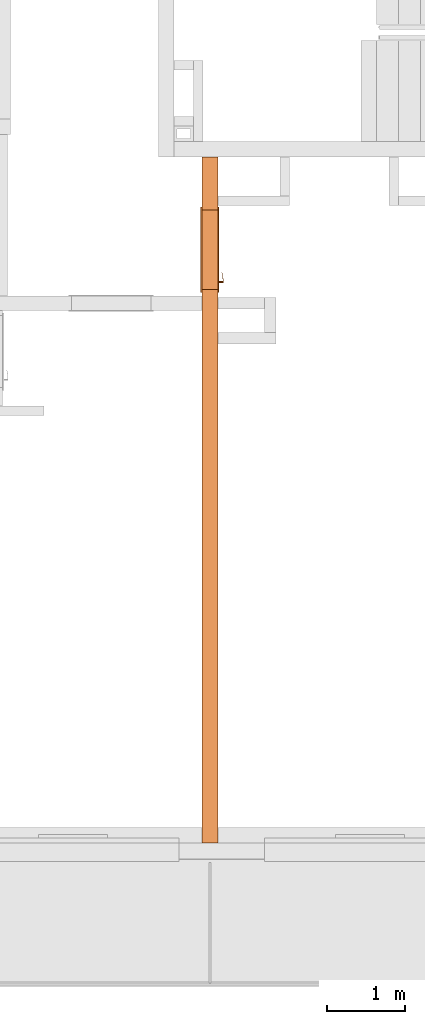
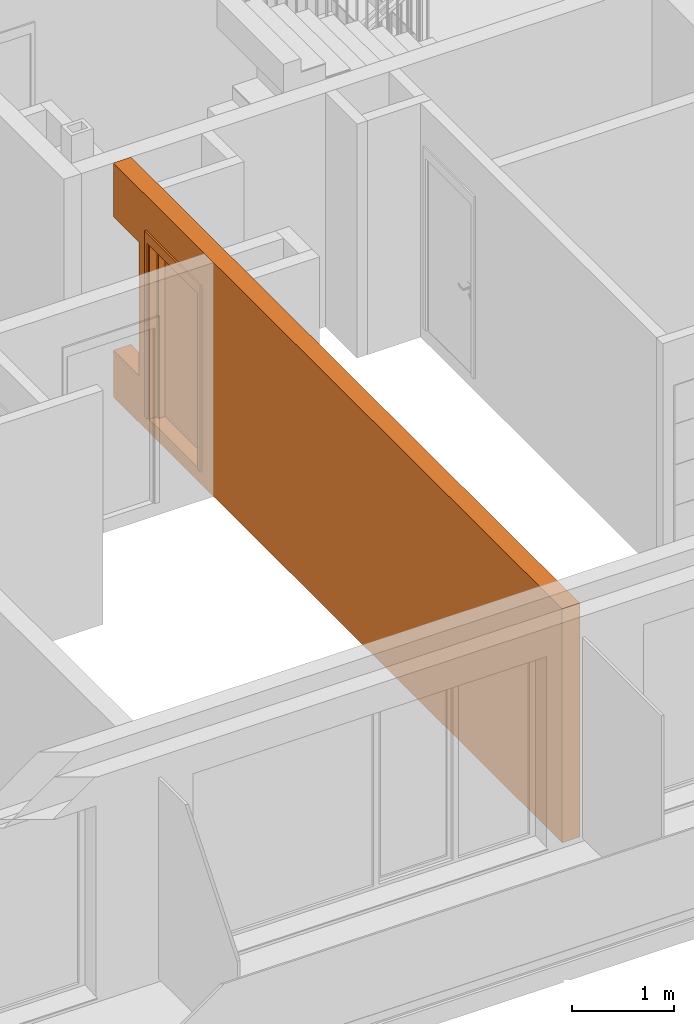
# One storey, part 18 of 64: 2 proxies, 2 openings.
"""IFC2X3 building model written with IfcOpenShell, lengths in millimetres."""

from ifc_helpers import new_model, entity, si_unit, converted_unit, derived_unit, money_unit, direction, frame, origin_with_axes, origin_2d_with_axis, place, context, subcontext, project, spatial, rectangle, extrude, open_shell, faceted_brep, surface_model, source, transform, mapped, material, type_object, element, fill, save


model = new_model("IFC2X3")

# Units and contexts
model_context = context("Model", 3, precision=0.01, world=origin_with_axes(), true_north=direction((0.34421633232, 0.938890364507)))
body_context = subcontext(model_context, "Body", "Model", "MODEL_VIEW")
ifc_project = project(units=[si_unit("LENGTHUNIT", "METRE", prefix="MILLI"), si_unit("AREAUNIT", "SQUARE_METRE"), si_unit("VOLUMEUNIT", "CUBIC_METRE"), converted_unit("PLANEANGLEUNIT", "DEGREE", entity("IfcPlaneAngleMeasure", 0.0174532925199), si_unit("PLANEANGLEUNIT", "RADIAN"), dimensions=[0, 0, 0, 0, 0, 0, 0]), si_unit("SOLIDANGLEUNIT", "STERADIAN"), money_unit("USD"), converted_unit("TIMEUNIT", "Year", entity("IfcTimeMeasure", 31556926.0), si_unit("TIMEUNIT", "SECOND"), dimensions=[0, 0, 1, 0, 0, 0, 0]), si_unit("MASSUNIT", "GRAM", prefix="KILO"), si_unit("THERMODYNAMICTEMPERATUREUNIT", "DEGREE_CELSIUS"), si_unit("LUMINOUSINTENSITYUNIT", "LUMEN"), si_unit("ENERGYUNIT", "JOULE", prefix="MEGA"), derived_unit("THERMALCONDUCTANCEUNIT", [(si_unit("POWERUNIT", "WATT"), 1), (si_unit("LENGTHUNIT", "METRE"), -1), (si_unit("THERMODYNAMICTEMPERATUREUNIT", "KELVIN"), -1)]), derived_unit("SPECIFICHEATCAPACITYUNIT", [(si_unit("ENERGYUNIT", "JOULE"), 1), (si_unit("MASSUNIT", "GRAM", prefix="KILO"), -1), (si_unit("THERMODYNAMICTEMPERATUREUNIT", "KELVIN"), -1)]), derived_unit("MASSDENSITYUNIT", [(si_unit("MASSUNIT", "GRAM", prefix="KILO"), 1), (si_unit("VOLUMEUNIT", "CUBIC_METRE"), -1)])], contexts=[model_context])

# Site, building, storey
site_placement = place(None, origin_with_axes())
site = spatial("IfcSite", under=ifc_project, at=site_placement, Name="USTRONIE MORSKIE", CompositionType="ELEMENT")
building_placement = place(site_placement, origin_with_axes())
building = spatial("IfcBuilding", under=site, at=building_placement, Name="Budynek", CompositionType="ELEMENT")
storey_placement = place(building_placement, frame((0.0, 0.0, 7000.0), z_axis=(0.0, 0.0, 1.0), x_axis=(1.0, 0.0, 0.0)))
storey = spatial("IfcBuildingStorey", under=building, at=storey_placement, Name="PIĘTRO 2", CompositionType="ELEMENT", Elevation=7000.0)

# Proxies, openings
ifc_material = material(Name="Beton konstrukcyjny B25")
building_element_proxy_type_1 = type_object("IfcBuildingElementProxyType", Name="Beton konstrukcyjny B25 200", PredefinedType="NOTDEFINED")
proxy_1_placement = place(storey_placement, frame((390217.920919, 729801.199036, -160.0), z_axis=(0.0, 0.0, 1.0), x_axis=(0.0, -1.0, 0.0)))
proxy_1 = element("IfcBuildingElementProxy", 1, at=proxy_1_placement, inside=storey, type_object=building_element_proxy_type_1, material=ifc_material, Name="SW-01", context=body_context, shape_type="Brep", body=[
    faceted_brep([(8900.0, 100.0, 0.0), (8900.0, -100.0, 0.0), (100.0, -100.0, 0.0), (100.0, 100.0, 0.0), (8900.0, 100.0, 2800.0), (8900.0, -100.0, 2800.0), (100.0, -100.0, 2800.0), (100.0, 100.0, 2800.0)], [[[0, 1, 2, 3]], [[1, 0, 4, 5]], [[1, 5, 6, 2]], [[7, 3, 2, 6]], [[4, 0, 3, 7]], [[5, 4, 7, 6]]]),
])
opening_1_placement = place(proxy_1_placement, frame((1290.0, 0.0, 160.0), z_axis=(0.0, 0.0, 1.0), x_axis=(1.0, 0.0, 0.0)))
opening_1 = element("IfcOpeningElement", 2, at=opening_1_placement, cuts=proxy_1, Name="Dw.1", context=body_context, shape_type="SweptSolid", body=[
    extrude(rectangle(XDim=1020.0, YDim=2120.0, at=origin_2d_with_axis()), frame((0.0, -200.0, 1060.0), z_axis=(0.0, -1.0, 0.0), x_axis=(-1.0, 0.0, 0.0)), (0.0, 0.0, -1.0), 600.0),
    extrude(rectangle(XDim=1094.0, YDim=2227.0, at=origin_2d_with_axis()), frame((0.0, -100.0, 1113.5), z_axis=(0.0, -1.0, 0.0), x_axis=(-1.0, 0.0, 0.0)), (0.0, 0.0, 1.0), 200.0),
    extrude(rectangle(XDim=1094.0, YDim=2227.0, at=origin_2d_with_axis()), frame((0.0, 100.0, 1113.5), z_axis=(0.0, 1.0, 0.0), x_axis=(-1.0, 0.0, 0.0)), (0.0, 0.0, 1.0), 200.0),
])
opening_2_placement = place(proxy_1_placement, frame((350.0, 0.0, 560.0), z_axis=(0.0, 0.0, 1.0), x_axis=(1.0, 0.0, 0.0)))
element("IfcOpeningElement", 3, at=opening_2_placement, cuts=proxy_1, Name="R.01", context=body_context, shape_type="SweptSolid", body=[
    extrude(rectangle(XDim=500.001816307, YDim=1600.0, at=origin_2d_with_axis()), frame((0.0, -100.0, 800.0), z_axis=(0.0, 1.0, 0.0), x_axis=(1.0, 0.0, 0.0)), (0.0, 0.0, -1.0), 200.0),
    extrude(rectangle(XDim=500.001816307, YDim=1600.0, at=origin_2d_with_axis()), frame((0.0, -100.0, 800.0), z_axis=(0.0, -1.0, 0.0), x_axis=(1.0, 0.0, 0.0)), (0.0, 0.0, -1.0), 200.0),
])
building_element_proxy_type_2 = type_object("IfcBuildingElementProxyType", Name="Drzwi 23", PredefinedType="NOTDEFINED")
shared_shape = source(origin_with_axes(), body_context, "Body", "SurfaceModel", [
    faceted_brep([(510.0, -115.0, 0.0), (510.0, -200.0, 0.0), (485.0, -200.0, 0.0), (485.0, -115.0, 0.0), (510.0, -115.0, 2120.0), (510.0, -200.0, 2120.0), (485.0, -200.0, 2095.0), (485.0, -115.0, 2095.0)], [[[0, 1, 2, 3]], [[4, 5, 1, 0]], [[1, 5, 6, 2]], [[3, 2, 6, 7]], [[0, 3, 7, 4]], [[7, 6, 5, 4]]]),
    faceted_brep([(-510.0, -115.0, 2120.0), (-510.0, -200.0, 2120.0), (-485.0, -200.0, 2095.0), (-485.0, -115.0, 2095.0), (-510.0, -115.0, 0.0), (-510.0, -200.0, 0.0), (-485.0, -200.0, 0.0), (-485.0, -115.0, 0.0)], [[[0, 1, 2, 3]], [[4, 5, 1, 0]], [[1, 5, 6, 2]], [[3, 2, 6, 7]], [[0, 3, 7, 4]], [[7, 6, 5, 4]]]),
    faceted_brep([(485.0, -115.0, 2095.0), (485.0, -200.0, 2095.0), (-485.0, -200.0, 2095.0), (-485.0, -115.0, 2095.0), (510.0, -115.0, 2120.0), (510.0, -200.0, 2120.0), (-510.0, -200.0, 2120.0), (-510.0, -115.0, 2120.0)], [[[0, 1, 2, 3]], [[4, 5, 1, 0]], [[1, 5, 6, 2]], [[3, 2, 6, 7]], [[0, 3, 7, 4]], [[7, 6, 5, 4]]]),
    faceted_brep([(547.0, -219.0, 0.0), (497.0, -219.0, 0.0), (497.0, -200.0, 0.0), (547.0, -200.0, 0.0), (547.0, -219.0, 2227.0), (497.0, -219.0, 2107.0), (497.0, -200.0, 2107.0), (547.0, -200.0, 2227.0)], [[[0, 1, 2, 3]], [[0, 4, 5, 1]], [[1, 5, 6, 2]], [[3, 2, 6, 7]], [[4, 0, 3, 7]], [[5, 4, 7, 6]]]),
    faceted_brep([(-547.0, -219.0, 2227.0), (-497.0, -219.0, 2107.0), (-497.0, -200.0, 2107.0), (-547.0, -200.0, 2227.0), (-547.0, -219.0, 0.0), (-497.0, -219.0, 0.0), (-497.0, -200.0, 0.0), (-547.0, -200.0, 0.0)], [[[0, 1, 2, 3]], [[0, 4, 5, 1]], [[1, 5, 6, 2]], [[3, 2, 6, 7]], [[4, 0, 3, 7]], [[5, 4, 7, 6]]]),
    faceted_brep([(547.0, -219.0, 2227.0), (497.0, -219.0, 2107.0), (497.0, -200.0, 2107.0), (547.0, -200.0, 2227.0), (-547.0, -219.0, 2227.0), (-497.0, -219.0, 2107.0), (-497.0, -200.0, 2107.0), (-547.0, -200.0, 2227.0)], [[[0, 1, 2, 3]], [[0, 4, 5, 1]], [[1, 5, 6, 2]], [[3, 2, 6, 7]], [[4, 0, 3, 7]], [[5, 4, 7, 6]]]),
    faceted_brep([(547.0, 19.0, 0.0), (547.0, 0.0, 0.0), (497.0, 0.0, 0.0), (497.0, 19.0, 0.0), (547.0, 19.0, 2227.0), (547.0, 0.0, 2227.0), (497.0, 0.0, 2107.0), (497.0, 19.0, 2107.0)], [[[0, 1, 2, 3]], [[4, 5, 1, 0]], [[1, 5, 6, 2]], [[3, 2, 6, 7]], [[0, 3, 7, 4]], [[7, 6, 5, 4]]]),
    faceted_brep([(-547.0, 19.0, 2227.0), (-547.0, 0.0, 2227.0), (-497.0, 0.0, 2107.0), (-497.0, 19.0, 2107.0), (-547.0, 19.0, 0.0), (-547.0, 0.0, 0.0), (-497.0, 0.0, 0.0), (-497.0, 19.0, 0.0)], [[[0, 1, 2, 3]], [[4, 5, 1, 0]], [[1, 5, 6, 2]], [[3, 2, 6, 7]], [[0, 3, 7, 4]], [[7, 6, 5, 4]]]),
    faceted_brep([(547.0, 19.0, 2227.0), (547.0, 0.0, 2227.0), (497.0, 0.0, 2107.0), (497.0, 19.0, 2107.0), (-547.0, 19.0, 2227.0), (-547.0, 0.0, 2227.0), (-497.0, 0.0, 2107.0), (-497.0, 19.0, 2107.0)], [[[0, 1, 2, 3]], [[4, 5, 1, 0]], [[1, 5, 6, 2]], [[3, 2, 6, 7]], [[0, 3, 7, 4]], [[7, 6, 5, 4]]]),
    faceted_brep([(450.0, -40.0, 0.0), (450.0, -115.0, 0.0), (450.0, -115.0, 2050.0), (450.0, -40.0, 2050.0), (462.0, -40.0, 0.0), (462.0, 0.0, 0.0), (510.0, 0.0, 0.0), (510.0, -115.0, 0.0), (510.0, -115.0, 2050.0), (462.0, -40.0, 2050.0), (510.0, 0.0, 2050.0), (462.0, 0.0, 2050.0)], [[[0, 1, 2, 3]], [[4, 5, 6, 7, 1, 0]], [[1, 7, 8, 2]], [[9, 3, 2, 8, 10, 11]], [[9, 4, 0, 3]], [[11, 5, 4, 9]], [[11, 10, 6, 5]], [[6, 10, 8, 7]]]),
    faceted_brep([(-462.0, -40.0, 2050.0), (-462.0, 0.0, 2050.0), (-510.0, 0.0, 2050.0), (-510.0, -115.0, 2050.0), (-450.0, -115.0, 2050.0), (-450.0, -40.0, 2050.0), (-462.0, -40.0, 0.0), (-462.0, 0.0, 0.0), (-510.0, 0.0, 0.0), (-510.0, -115.0, 0.0), (-450.0, -115.0, 0.0), (-450.0, -40.0, 0.0)], [[[0, 1, 2, 3, 4, 5]], [[0, 6, 7, 1]], [[7, 8, 2, 1]], [[2, 8, 9, 3]], [[3, 9, 10, 4]], [[5, 4, 10, 11]], [[5, 11, 6, 0]], [[6, 11, 10, 9, 8, 7]]]),
    faceted_brep([(462.0, 0.0, 2062.0), (-462.0, 0.0, 2062.0), (-462.0, 0.0, 2050.0), (-510.0, 0.0, 2050.0), (-510.0, 0.0, 2120.0), (510.0, 0.0, 2120.0), (510.0, 0.0, 2050.0), (462.0, 0.0, 2050.0), (462.0, -40.0, 2062.0), (-462.0, -40.0, 2062.0), (-462.0, -40.0, 2050.0), (-450.0, -40.0, 2050.0), (-450.0, -115.0, 2050.0), (-510.0, -115.0, 2050.0), (-510.0, -115.0, 2120.0), (510.0, -115.0, 2120.0), (510.0, -115.0, 2050.0), (462.0, -40.0, 2050.0), (450.0, -115.0, 2050.0), (450.0, -40.0, 2050.0)], [[[0, 1, 2, 3, 4, 5, 6, 7]], [[0, 8, 9, 1]], [[1, 9, 10, 2]], [[10, 11, 12, 13, 3, 2]], [[4, 3, 13, 14]], [[5, 4, 14, 15]], [[6, 5, 15, 16]], [[17, 7, 6, 16, 18, 19]], [[7, 17, 8, 0]], [[10, 9, 8, 17, 19, 11]], [[19, 18, 12, 11]], [[12, 18, 16, 15, 14, 13]]]),
    faceted_brep([(440.5, -40.0, 1060.0), (383.5, -40.0, 1060.0), (383.5, -43.0, 1060.0), (440.5, -43.0, 1060.0), (440.5, -40.0, 870.0), (383.5, -40.0, 870.0), (383.5, -43.0, 870.0), (440.5, -43.0, 870.0)], [[[0, 1, 2, 3]], [[0, 4, 5, 1]], [[1, 5, 6, 2]], [[3, 2, 6, 7]], [[4, 0, 3, 7]], [[5, 4, 7, 6]]]),
    faceted_brep([(412.0, -104.0, 990.0), (417.0, -104.0, 991.339745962), (417.0, -111.0, 991.339745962), (412.0, -111.0, 990.0), (387.0, -104.0, 990.0), (387.0, -104.0, 1010.0), (412.0, -104.0, 1010.0), (417.0, -104.0, 1008.66025404), (420.660254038, -104.0, 1005.0), (422.0, -104.0, 1000.0), (420.660254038, -104.0, 995.0), (420.660254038, -111.0, 995.0), (422.0, -111.0, 1000.0), (420.660254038, -111.0, 1005.0), (417.0, -111.0, 1008.66025404), (412.0, -111.0, 1010.0), (387.0, -111.0, 1010.0), (387.0, -111.0, 990.0)], [[[0, 1, 2, 3]], [[0, 4, 5, 6, 7, 8, 9, 10, 1]], [[1, 10, 11, 2]], [[3, 2, 11, 12, 13, 14, 15, 16, 17]], [[4, 0, 3, 17]], [[5, 4, 17, 16]], [[6, 5, 16, 15]], [[7, 6, 15, 14]], [[8, 7, 14, 13]], [[9, 8, 13, 12]], [[10, 9, 12, 11]]]),
    surface_model("IfcShellBasedSurfaceModel", [(387.0, -104.0, 1010.0), (373.901717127, -104.0, 1009.60730092), (373.596090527, -111.0, 1009.60730092), (387.0, -104.0, 990.0), (373.901717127, -104.0, 990.392699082), (346.890283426, -108.663544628, 1008.82190275), (387.0, -111.0, 1010.0), (387.0, -111.0, 990.0), (347.804837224, -101.716818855, 991.178097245), (347.804837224, -101.716818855, 1008.82190275), (346.890283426, -108.663544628, 991.178097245), (373.596090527, -111.0, 990.392699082), (322.006256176, -97.1678329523, 991.963495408), (322.006256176, -97.1678329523, 1008.03650459), (320.489735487, -104.008415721, 1008.03650459), (320.489735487, -104.008415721, 991.963495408), (296.702316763, -90.3876628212, 992.748893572), (296.702316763, -90.3876628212, 1007.25110643), (294.59537082, -97.0700416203, 1007.25110643), (294.59537082, -97.0700416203, 992.748893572), (288.829442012, -87.5221707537, 993.0), (288.829442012, -87.5221707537, 1007.0), (286.538795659, -94.1376880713, 1007.0), (286.538795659, -94.1376880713, 993.0)], [open_shell([[[0, 1, 2]], [[0, 3, 4, 1]], [[1, 5, 2]], [[0, 2, 6]], [[4, 3, 7]], [[1, 4, 8, 9]], [[1, 9, 5]], [[2, 5, 10, 11]], [[6, 2, 11, 7]], [[4, 7, 11]], [[8, 4, 11]], [[9, 8, 12, 13]], [[9, 14, 5]], [[5, 14, 15, 10]], [[8, 11, 10]], [[12, 8, 10]], [[13, 12, 16, 17]], [[9, 13, 14]], [[14, 18, 19, 15]], [[12, 10, 15]], [[16, 12, 15]], [[17, 16, 20, 21]], [[13, 17, 18]], [[13, 18, 14]], [[18, 22, 23, 19]], [[16, 15, 19]], [[20, 16, 19]], [[21, 20, 23, 22]], [[17, 21, 22]], [[17, 22, 18]], [[20, 19, 23]]])]),
    faceted_brep([(401.607695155, -53.0, 994.0), (400.0, -53.0, 1000.0), (399.0, -43.0, 1000.0), (400.741669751, -43.0, 993.5), (406.0, -53.0, 989.607695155), (412.0, -53.0, 988.0), (418.0, -53.0, 989.607695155), (422.392304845, -53.0, 994.0), (424.0, -53.0, 1000.0), (422.392304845, -53.0, 1006.0), (418.0, -53.0, 1010.39230485), (412.0, -53.0, 1012.0), (406.0, -53.0, 1010.39230485), (401.607695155, -53.0, 1006.0), (400.741669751, -43.0, 1006.5), (405.5, -43.0, 1011.25833025), (412.0, -43.0, 1013.0), (418.5, -43.0, 1011.25833025), (423.258330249, -43.0, 1006.5), (425.0, -43.0, 1000.0), (423.258330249, -43.0, 993.5), (418.5, -43.0, 988.741669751), (412.0, -43.0, 987.0), (405.5, -43.0, 988.741669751)], [[[0, 1, 2, 3]], [[1, 0, 4, 5, 6, 7, 8, 9, 10, 11, 12, 13]], [[1, 13, 14, 2]], [[2, 14, 15, 16, 17, 18, 19, 20, 21, 22, 23, 3]], [[4, 0, 3, 23]], [[5, 4, 23, 22]], [[6, 5, 22, 21]], [[7, 6, 21, 20]], [[8, 7, 20, 19]], [[9, 8, 19, 18]], [[10, 9, 18, 17]], [[11, 10, 17, 16]], [[12, 11, 16, 15]], [[13, 12, 15, 14]]]),
    faceted_brep([(394.679491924, -47.0, 895.0), (392.0, -47.0, 905.0), (390.0, -43.0, 905.0), (392.947441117, -43.0, 894.0), (402.0, -47.0, 887.679491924), (412.0, -47.0, 885.0), (422.0, -47.0, 887.679491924), (429.320508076, -47.0, 895.0), (432.0, -47.0, 905.0), (429.320508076, -47.0, 915.0), (422.0, -47.0, 922.320508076), (412.0, -47.0, 925.0), (402.0, -47.0, 922.320508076), (394.679491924, -47.0, 915.0), (392.947441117, -43.0, 916.0), (401.0, -43.0, 924.052558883), (412.0, -43.0, 927.0), (423.0, -43.0, 924.052558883), (431.052558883, -43.0, 916.0), (434.0, -43.0, 905.0), (431.052558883, -43.0, 894.0), (423.0, -43.0, 885.947441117), (412.0, -43.0, 883.0), (401.0, -43.0, 885.947441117)], [[[0, 1, 2, 3]], [[1, 0, 4, 5, 6, 7, 8, 9, 10, 11, 12, 13]], [[1, 13, 14, 2]], [[2, 14, 15, 16, 17, 18, 19, 20, 21, 22, 23, 3]], [[4, 0, 3, 23]], [[5, 4, 23, 22]], [[6, 5, 22, 21]], [[7, 6, 21, 20]], [[8, 7, 20, 19]], [[9, 8, 19, 18]], [[10, 9, 18, 17]], [[11, 10, 17, 16]], [[12, 11, 16, 15]], [[13, 12, 15, 14]]]),
    faceted_brep([(407.050252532, -49.0, 909.050252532), (405.0, -49.0, 914.0), (404.0, -47.0, 914.0), (406.343145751, -47.0, 908.343145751), (412.0, -49.0, 907.0), (416.949747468, -49.0, 909.050252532), (419.0, -49.0, 914.0), (416.949747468, -49.0, 918.949747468), (412.0, -49.0, 921.0), (407.050252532, -49.0, 918.949747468), (406.343145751, -47.0, 919.656854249), (412.0, -47.0, 922.0), (417.656854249, -47.0, 919.656854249), (420.0, -47.0, 914.0), (417.656854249, -47.0, 908.343145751), (412.0, -47.0, 906.0)], [[[0, 1, 2, 3]], [[1, 0, 4, 5, 6, 7, 8, 9]], [[1, 9, 10, 2]], [[2, 10, 11, 12, 13, 14, 15, 3]], [[4, 0, 3, 15]], [[5, 4, 15, 14]], [[6, 5, 14, 13]], [[7, 6, 13, 12]], [[8, 7, 12, 11]], [[9, 8, 11, 10]]]),
    faceted_brep([(412.0, -53.0, 1010.0), (407.0, -53.0, 1008.66025404), (407.0, -104.0, 1008.66025404), (412.0, -104.0, 1010.0), (417.0, -53.0, 1008.66025404), (420.660254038, -53.0, 1005.0), (422.0, -53.0, 1000.0), (420.660254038, -53.0, 995.0), (417.0, -53.0, 991.339745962), (412.0, -53.0, 990.0), (407.0, -53.0, 991.339745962), (403.339745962, -53.0, 995.0), (402.0, -53.0, 1000.0), (403.339745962, -53.0, 1005.0), (403.339745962, -104.0, 1005.0), (402.0, -104.0, 1000.0), (403.339745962, -104.0, 995.0), (407.0, -104.0, 991.339745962), (412.0, -104.0, 990.0), (417.0, -104.0, 991.339745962), (420.660254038, -104.0, 995.0), (422.0, -104.0, 1000.0), (420.660254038, -104.0, 1005.0), (417.0, -104.0, 1008.66025404)], [[[0, 1, 2, 3]], [[0, 4, 5, 6, 7, 8, 9, 10, 11, 12, 13, 1]], [[1, 13, 14, 2]], [[3, 2, 14, 15, 16, 17, 18, 19, 20, 21, 22, 23]], [[4, 0, 3, 23]], [[5, 4, 23, 22]], [[6, 5, 22, 21]], [[7, 6, 21, 20]], [[8, 7, 20, 19]], [[9, 8, 19, 18]], [[10, 9, 18, 17]], [[11, 10, 17, 16]], [[12, 11, 16, 15]], [[13, 12, 15, 14]]]),
    faceted_brep([(440.5, 0.0, 1060.0), (440.5, 3.0, 1060.0), (383.5, 3.0, 1060.0), (383.5, 0.0, 1060.0), (440.5, 0.0, 870.0), (440.5, 3.0, 870.0), (383.5, 3.0, 870.0), (383.5, 0.0, 870.0)], [[[0, 1, 2, 3]], [[4, 5, 1, 0]], [[1, 5, 6, 2]], [[3, 2, 6, 7]], [[0, 3, 7, 4]], [[7, 6, 5, 4]]]),
    faceted_brep([(412.0, 64.0, 990.0), (412.0, 71.0, 990.0), (417.0, 71.0, 991.339745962), (417.0, 64.0, 991.339745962), (387.0, 64.0, 990.0), (387.0, 71.0, 990.0), (387.0, 71.0, 1010.0), (412.0, 71.0, 1010.0), (417.0, 71.0, 1008.66025404), (420.660254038, 71.0, 1005.0), (422.0, 71.0, 1000.0), (420.660254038, 71.0, 995.0), (420.660254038, 64.0, 995.0), (422.0, 64.0, 1000.0), (420.660254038, 64.0, 1005.0), (417.0, 64.0, 1008.66025404), (412.0, 64.0, 1010.0), (387.0, 64.0, 1010.0)], [[[0, 1, 2, 3]], [[4, 5, 1, 0]], [[1, 5, 6, 7, 8, 9, 10, 11, 2]], [[3, 2, 11, 12]], [[0, 3, 12, 13, 14, 15, 16, 17, 4]], [[17, 6, 5, 4]], [[16, 7, 6, 17]], [[15, 8, 7, 16]], [[14, 9, 8, 15]], [[13, 10, 9, 14]], [[12, 11, 10, 13]]]),
    surface_model("IfcShellBasedSurfaceModel", [(387.0, 64.0, 1010.0), (373.596090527, 71.0, 1009.60730092), (373.901717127, 64.0, 1009.60730092), (387.0, 71.0, 1010.0), (346.890283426, 68.6635446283, 1008.82190275), (373.901717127, 64.0, 990.392699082), (387.0, 64.0, 990.0), (387.0, 71.0, 990.0), (373.596090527, 71.0, 990.392699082), (346.890283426, 68.6635446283, 991.178097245), (347.804837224, 61.716818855, 1008.82190275), (347.804837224, 61.716818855, 991.178097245), (320.489735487, 64.0084157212, 991.963495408), (320.489735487, 64.0084157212, 1008.03650459), (322.006256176, 57.1678329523, 1008.03650459), (322.006256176, 57.1678329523, 991.963495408), (294.59537082, 57.0700416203, 992.748893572), (294.59537082, 57.0700416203, 1007.25110643), (296.702316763, 50.3876628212, 1007.25110643), (296.702316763, 50.3876628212, 992.748893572), (286.538795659, 54.1376880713, 993.0), (286.538795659, 54.1376880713, 1007.0), (288.829442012, 47.5221707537, 1007.0), (288.829442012, 47.5221707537, 993.0)], [open_shell([[[0, 1, 2]], [[0, 3, 1]], [[2, 1, 4]], [[0, 2, 5, 6]], [[3, 7, 8, 1]], [[1, 8, 9, 4]], [[2, 4, 10]], [[2, 10, 11, 5]], [[5, 7, 6]], [[5, 8, 7]], [[11, 9, 8]], [[4, 9, 12, 13]], [[10, 4, 13]], [[10, 14, 15, 11]], [[11, 8, 5]], [[15, 9, 11]], [[15, 12, 9]], [[13, 12, 16, 17]], [[10, 13, 14]], [[14, 18, 19, 15]], [[19, 12, 15]], [[19, 16, 12]], [[17, 16, 20, 21]], [[14, 13, 17]], [[14, 17, 18]], [[18, 22, 23, 19]], [[23, 16, 19]], [[23, 20, 16]], [[22, 21, 20, 23]], [[18, 17, 21]], [[18, 21, 22]]])]),
    faceted_brep([(401.607695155, 13.0, 994.0), (400.741669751, 3.0, 993.5), (399.0, 3.0, 1000.0), (400.0, 13.0, 1000.0), (406.0, 13.0, 989.607695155), (405.5, 3.0, 988.741669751), (412.0, 3.0, 987.0), (418.5, 3.0, 988.741669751), (423.258330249, 3.0, 993.5), (425.0, 3.0, 1000.0), (423.258330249, 3.0, 1006.5), (418.5, 3.0, 1011.25833025), (412.0, 3.0, 1013.0), (405.5, 3.0, 1011.25833025), (400.741669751, 3.0, 1006.5), (401.607695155, 13.0, 1006.0), (406.0, 13.0, 1010.39230485), (412.0, 13.0, 1012.0), (418.0, 13.0, 1010.39230485), (422.392304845, 13.0, 1006.0), (424.0, 13.0, 1000.0), (422.392304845, 13.0, 994.0), (418.0, 13.0, 989.607695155), (412.0, 13.0, 988.0)], [[[0, 1, 2, 3]], [[4, 5, 1, 0]], [[2, 1, 5, 6, 7, 8, 9, 10, 11, 12, 13, 14]], [[3, 2, 14, 15]], [[3, 15, 16, 17, 18, 19, 20, 21, 22, 23, 4, 0]], [[23, 6, 5, 4]], [[22, 7, 6, 23]], [[21, 8, 7, 22]], [[20, 9, 8, 21]], [[19, 10, 9, 20]], [[18, 11, 10, 19]], [[17, 12, 11, 18]], [[16, 13, 12, 17]], [[15, 14, 13, 16]]]),
    faceted_brep([(394.679491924, 7.0, 895.0), (392.947441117, 3.0, 894.0), (390.0, 3.0, 905.0), (392.0, 7.0, 905.0), (402.0, 7.0, 887.679491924), (401.0, 3.0, 885.947441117), (412.0, 3.0, 883.0), (423.0, 3.0, 885.947441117), (431.052558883, 3.0, 894.0), (434.0, 3.0, 905.0), (431.052558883, 3.0, 916.0), (423.0, 3.0, 924.052558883), (412.0, 3.0, 927.0), (401.0, 3.0, 924.052558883), (392.947441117, 3.0, 916.0), (394.679491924, 7.0, 915.0), (402.0, 7.0, 922.320508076), (412.0, 7.0, 925.0), (422.0, 7.0, 922.320508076), (429.320508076, 7.0, 915.0), (432.0, 7.0, 905.0), (429.320508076, 7.0, 895.0), (422.0, 7.0, 887.679491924), (412.0, 7.0, 885.0)], [[[0, 1, 2, 3]], [[4, 5, 1, 0]], [[2, 1, 5, 6, 7, 8, 9, 10, 11, 12, 13, 14]], [[3, 2, 14, 15]], [[3, 15, 16, 17, 18, 19, 20, 21, 22, 23, 4, 0]], [[23, 6, 5, 4]], [[22, 7, 6, 23]], [[21, 8, 7, 22]], [[20, 9, 8, 21]], [[19, 10, 9, 20]], [[18, 11, 10, 19]], [[17, 12, 11, 18]], [[16, 13, 12, 17]], [[15, 14, 13, 16]]]),
    faceted_brep([(407.050252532, 9.0, 909.050252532), (406.343145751, 7.0, 908.343145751), (404.0, 7.0, 914.0), (405.0, 9.0, 914.0), (412.0, 9.0, 907.0), (412.0, 7.0, 906.0), (417.656854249, 7.0, 908.343145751), (420.0, 7.0, 914.0), (417.656854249, 7.0, 919.656854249), (412.0, 7.0, 922.0), (406.343145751, 7.0, 919.656854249), (407.050252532, 9.0, 918.949747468), (412.0, 9.0, 921.0), (416.949747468, 9.0, 918.949747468), (419.0, 9.0, 914.0), (416.949747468, 9.0, 909.050252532)], [[[0, 1, 2, 3]], [[4, 5, 1, 0]], [[2, 1, 5, 6, 7, 8, 9, 10]], [[3, 2, 10, 11]], [[3, 11, 12, 13, 14, 15, 4, 0]], [[15, 6, 5, 4]], [[14, 7, 6, 15]], [[13, 8, 7, 14]], [[12, 9, 8, 13]], [[11, 10, 9, 12]]]),
    faceted_brep([(412.0, 13.0, 1010.0), (412.0, 64.0, 1010.0), (407.0, 64.0, 1008.66025404), (407.0, 13.0, 1008.66025404), (417.0, 13.0, 1008.66025404), (417.0, 64.0, 1008.66025404), (420.660254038, 64.0, 1005.0), (422.0, 64.0, 1000.0), (420.660254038, 64.0, 995.0), (417.0, 64.0, 991.339745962), (412.0, 64.0, 990.0), (407.0, 64.0, 991.339745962), (403.339745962, 64.0, 995.0), (402.0, 64.0, 1000.0), (403.339745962, 64.0, 1005.0), (403.339745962, 13.0, 1005.0), (402.0, 13.0, 1000.0), (403.339745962, 13.0, 995.0), (407.0, 13.0, 991.339745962), (412.0, 13.0, 990.0), (417.0, 13.0, 991.339745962), (420.660254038, 13.0, 995.0), (422.0, 13.0, 1000.0), (420.660254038, 13.0, 1005.0)], [[[0, 1, 2, 3]], [[4, 5, 1, 0]], [[1, 5, 6, 7, 8, 9, 10, 11, 12, 13, 14, 2]], [[3, 2, 14, 15]], [[0, 3, 15, 16, 17, 18, 19, 20, 21, 22, 23, 4]], [[23, 6, 5, 4]], [[22, 7, 6, 23]], [[21, 8, 7, 22]], [[20, 9, 8, 21]], [[19, 10, 9, 20]], [[18, 11, 10, 19]], [[17, 12, 11, 18]], [[16, 13, 12, 17]], [[15, 14, 13, 16]]]),
    faceted_brep([(-462.0, 0.0, 0.0), (462.0, 0.0, 0.0), (462.0, -40.0, 0.0), (-462.0, -40.0, 0.0), (-462.0, 0.0, 2062.0), (462.0, 0.0, 2062.0), (462.0, -40.0, 2062.0), (-462.0, -40.0, 2062.0)], [[[0, 1, 2, 3]], [[0, 4, 5, 1]], [[1, 5, 6, 2]], [[3, 2, 6, 7]], [[4, 0, 3, 7]], [[5, 4, 7, 6]]]),
])
proxy_2_placement = place(opening_1_placement, frame((-450.0, 0.0, 0.0), z_axis=(0.0, 0.0, 1.0), x_axis=(1.0, 0.0, 0.0)))
proxy_2 = element("IfcBuildingElementProxy", 4, at=proxy_2_placement, inside=storey, type_object=building_element_proxy_type_2, Name="Dw.1", context=body_context, shape_type="MappedRepresentation", body=[
    mapped(shared_shape, transform((450.0, 100.0, 0.0))),
])
fill(opening_1, proxy_2)

save(model, "model.ifc")
